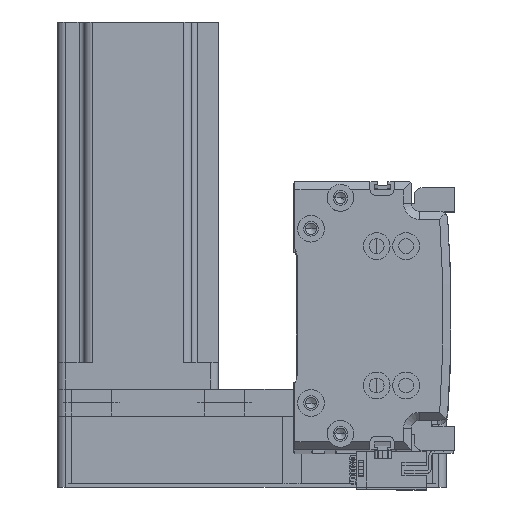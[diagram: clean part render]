
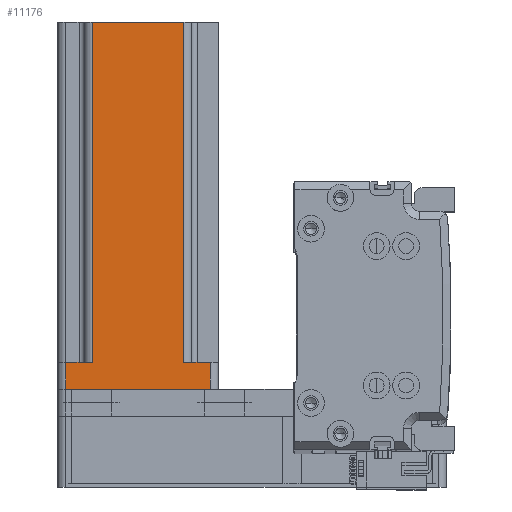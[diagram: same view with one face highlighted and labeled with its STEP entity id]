
A CAD part, top view. The second image highlights one B-rep face of the part: STEP entity #11176.
In plain terms, the highlighted planar face has unit normal (0, 0, 1) as drawn and (0, 1, 0) by its records, which use the part's own axes.
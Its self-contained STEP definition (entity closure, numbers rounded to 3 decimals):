
#182 = DIRECTION ( 'NONE',  ( -1., 0., 0. ) ) ;
#2711 = CARTESIAN_POINT ( 'NONE',  ( 20., 30., 10. ) ) ;
#2719 = EDGE_CURVE ( 'NONE', #40531, #39990, #23473, .T. ) ;
#2849 = VECTOR ( 'NONE', #24093, 1000. ) ;
#4814 = ORIENTED_EDGE ( 'NONE', *, *, #21904, .T. ) ;
#6759 = ORIENTED_EDGE ( 'NONE', *, *, #42458, .F. ) ;
#7068 = ORIENTED_EDGE ( 'NONE', *, *, #27138, .T. ) ;
#7703 = VECTOR ( 'NONE', #31284, 1000. ) ;
#8029 = CARTESIAN_POINT ( 'NONE',  ( 30., 30., 137. ) ) ;
#8933 = LINE ( 'NONE', #31120, #7703 ) ;
#10147 = CARTESIAN_POINT ( 'NONE',  ( 27., 30., 10. ) ) ;
#10423 = VECTOR ( 'NONE', #182, 1000. ) ;
#11176 = ADVANCED_FACE ( 'NONE', ( #24078 ), #13235, .F. ) ;
#11609 = AXIS2_PLACEMENT_3D ( 'NONE', #36528, #13392, #40410 ) ;
#13235 = PLANE ( 'NONE',  #11609 ) ;
#13392 = DIRECTION ( 'NONE',  ( 0., -1., 0. ) ) ;
#15812 = CARTESIAN_POINT ( 'NONE',  ( 27., 30., 0. ) ) ;
#15869 = VECTOR ( 'NONE', #19457, 1000. ) ;
#17000 = CARTESIAN_POINT ( 'NONE',  ( -17., 30., 137. ) ) ;
#17714 = VERTEX_POINT ( 'NONE', #15812 ) ;
#18155 = CARTESIAN_POINT ( 'NONE',  ( -27., 30., 10. ) ) ;
#18266 = EDGE_CURVE ( 'NONE', #29320, #17714, #26114, .T. ) ;
#18432 = LINE ( 'NONE', #2711, #28748 ) ;
#18570 = VECTOR ( 'NONE', #43605, 1000. ) ;
#19457 = DIRECTION ( 'NONE',  ( 0., 0., -1. ) ) ;
#19804 = LINE ( 'NONE', #35670, #18570 ) ;
#20194 = CARTESIAN_POINT ( 'NONE',  ( 30., 30., 0. ) ) ;
#20275 = VERTEX_POINT ( 'NONE', #36351 ) ;
#21797 = CARTESIAN_POINT ( 'NONE',  ( 17., 30., 10. ) ) ;
#21904 = EDGE_CURVE ( 'NONE', #34842, #40531, #19804, .T. ) ;
#23473 = LINE ( 'NONE', #47075, #42802 ) ;
#24078 = FACE_OUTER_BOUND ( 'NONE', #41276, .T. ) ;
#24093 = DIRECTION ( 'NONE',  ( -1., 0., 0. ) ) ;
#25870 = DIRECTION ( 'NONE',  ( -1., 0., 0. ) ) ;
#26114 = LINE ( 'NONE', #30629, #15869 ) ;
#27007 = EDGE_CURVE ( 'NONE', #17714, #34842, #33731, .T. ) ;
#27138 = EDGE_CURVE ( 'NONE', #39990, #49167, #37939, .T. ) ;
#28748 = VECTOR ( 'NONE', #25870, 1000. ) ;
#29320 = VERTEX_POINT ( 'NONE', #10147 ) ;
#29792 = LINE ( 'NONE', #8029, #10423 ) ;
#30629 = CARTESIAN_POINT ( 'NONE',  ( 27., 30., 137. ) ) ;
#31120 = CARTESIAN_POINT ( 'NONE',  ( 17., 30., 137. ) ) ;
#31284 = DIRECTION ( 'NONE',  ( 0., 0., -1. ) ) ;
#32541 = EDGE_CURVE ( 'NONE', #20275, #41116, #8933, .T. ) ;
#33731 = LINE ( 'NONE', #20194, #2849 ) ;
#34842 = VERTEX_POINT ( 'NONE', #44520 ) ;
#35670 = CARTESIAN_POINT ( 'NONE',  ( -27., 30., 137. ) ) ;
#36351 = CARTESIAN_POINT ( 'NONE',  ( 17., 30., 137. ) ) ;
#36528 = CARTESIAN_POINT ( 'NONE',  ( 30., 30., 137. ) ) ;
#37939 = LINE ( 'NONE', #17000, #45757 ) ;
#38504 = ORIENTED_EDGE ( 'NONE', *, *, #27007, .T. ) ;
#38645 = CARTESIAN_POINT ( 'NONE',  ( -17., 30., 137. ) ) ;
#38963 = ORIENTED_EDGE ( 'NONE', *, *, #18266, .T. ) ;
#39990 = VERTEX_POINT ( 'NONE', #42146 ) ;
#40410 = DIRECTION ( 'NONE',  ( 1., 0., 0. ) ) ;
#40531 = VERTEX_POINT ( 'NONE', #18155 ) ;
#41116 = VERTEX_POINT ( 'NONE', #21797 ) ;
#41276 = EDGE_LOOP ( 'NONE', ( #41386, #7068, #6759, #45475, #43955, #38963, #38504, #4814 ) ) ;
#41386 = ORIENTED_EDGE ( 'NONE', *, *, #2719, .T. ) ;
#42146 = CARTESIAN_POINT ( 'NONE',  ( -17., 30., 10. ) ) ;
#42458 = EDGE_CURVE ( 'NONE', #20275, #49167, #29792, .T. ) ;
#42802 = VECTOR ( 'NONE', #43345, 1000. ) ;
#43345 = DIRECTION ( 'NONE',  ( 1., 0., 0. ) ) ;
#43605 = DIRECTION ( 'NONE',  ( 0., 0., 1. ) ) ;
#43955 = ORIENTED_EDGE ( 'NONE', *, *, #49541, .F. ) ;
#44038 = DIRECTION ( 'NONE',  ( 0., 0., 1. ) ) ;
#44520 = CARTESIAN_POINT ( 'NONE',  ( -27., 30., 0. ) ) ;
#45475 = ORIENTED_EDGE ( 'NONE', *, *, #32541, .T. ) ;
#45757 = VECTOR ( 'NONE', #44038, 1000. ) ;
#47075 = CARTESIAN_POINT ( 'NONE',  ( -20., 30., 10. ) ) ;
#49167 = VERTEX_POINT ( 'NONE', #38645 ) ;
#49541 = EDGE_CURVE ( 'NONE', #29320, #41116, #18432, .T. ) ;
